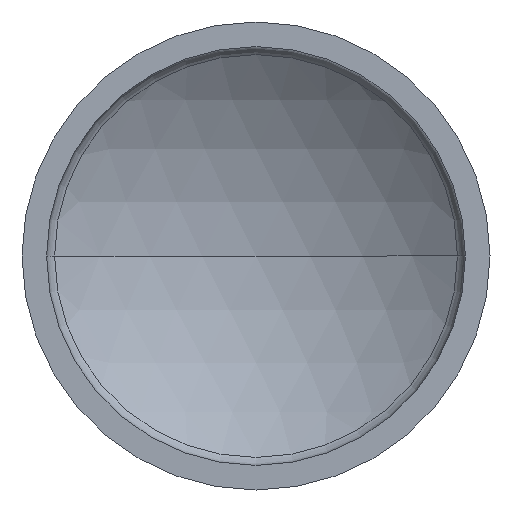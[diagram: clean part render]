
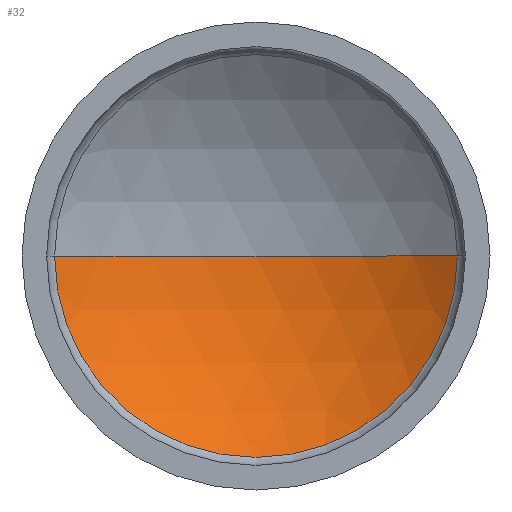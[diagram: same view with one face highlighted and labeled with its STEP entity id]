
A CAD part, front view. The second image highlights one B-rep face of the part: STEP entity #32.
In plain terms, the highlighted spherical face has radius 26.4 mm.
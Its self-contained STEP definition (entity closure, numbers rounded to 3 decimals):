
#9 = ORIENTED_EDGE ( 'NONE', *, *, #220, .F. ) ;
#32 = ADVANCED_FACE ( 'NONE', ( #238 ), #400, .F. ) ;
#39 = VERTEX_POINT ( 'NONE', #329 ) ;
#52 = CARTESIAN_POINT ( 'NONE',  ( 0., -17.4, 0. ) ) ;
#58 = CIRCLE ( 'NONE', #321, 26.4 ) ;
#69 = DIRECTION ( 'NONE',  ( 0., 1., 0. ) ) ;
#74 = VERTEX_POINT ( 'NONE', #241 ) ;
#93 = CARTESIAN_POINT ( 'NONE',  ( 0., 3.325, 0. ) ) ;
#144 = CIRCLE ( 'NONE', #255, 26.4 ) ;
#157 = CARTESIAN_POINT ( 'NONE',  ( -16.353, 3.325, 0. ) ) ;
#166 = VERTEX_POINT ( 'NONE', #157 ) ;
#171 = AXIS2_PLACEMENT_3D ( 'NONE', #93, #69, #264 ) ;
#179 = ORIENTED_EDGE ( 'NONE', *, *, #410, .F. ) ;
#186 = DIRECTION ( 'NONE',  ( 0., 0., -1. ) ) ;
#189 = CIRCLE ( 'NONE', #171, 16.353 ) ;
#204 = EDGE_LOOP ( 'NONE', ( #179, #302, #9 ) ) ;
#206 = DIRECTION ( 'NONE',  ( -1., 0., 0. ) ) ;
#220 = EDGE_CURVE ( 'NONE', #166, #39, #144, .T. ) ;
#238 = FACE_OUTER_BOUND ( 'NONE', #204, .T. ) ;
#241 = CARTESIAN_POINT ( 'NONE',  ( 16.353, 3.325, 0. ) ) ;
#249 = AXIS2_PLACEMENT_3D ( 'NONE', #52, #336, #206 ) ;
#255 = AXIS2_PLACEMENT_3D ( 'NONE', #378, #186, #317 ) ;
#264 = DIRECTION ( 'NONE',  ( -1., 0., 0. ) ) ;
#302 = ORIENTED_EDGE ( 'NONE', *, *, #370, .T. ) ;
#317 = DIRECTION ( 'NONE',  ( -1., 0., 0. ) ) ;
#321 = AXIS2_PLACEMENT_3D ( 'NONE', #390, #323, #383 ) ;
#323 = DIRECTION ( 'NONE',  ( 0., 0., 1. ) ) ;
#329 = CARTESIAN_POINT ( 'NONE',  ( 0., 9., 0. ) ) ;
#336 = DIRECTION ( 'NONE',  ( 0., 0., 1. ) ) ;
#370 = EDGE_CURVE ( 'NONE', #74, #39, #58, .T. ) ;
#378 = CARTESIAN_POINT ( 'NONE',  ( 0., -17.4, 0. ) ) ;
#383 = DIRECTION ( 'NONE',  ( 1., 0., 0. ) ) ;
#390 = CARTESIAN_POINT ( 'NONE',  ( 0., -17.4, 0. ) ) ;
#400 = SPHERICAL_SURFACE ( 'NONE', #249, 26.4 ) ;
#410 = EDGE_CURVE ( 'NONE', #74, #166, #189, .T. ) ;
